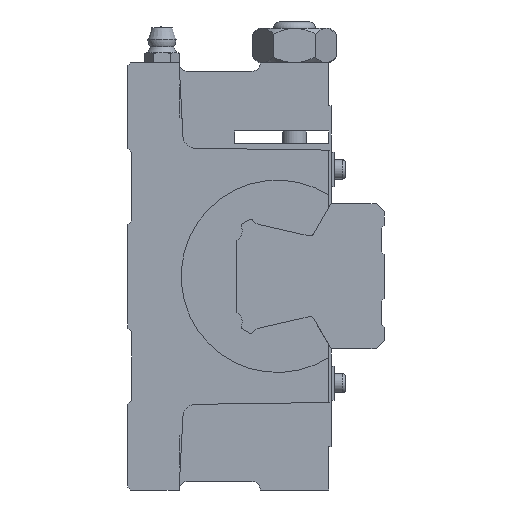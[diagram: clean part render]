
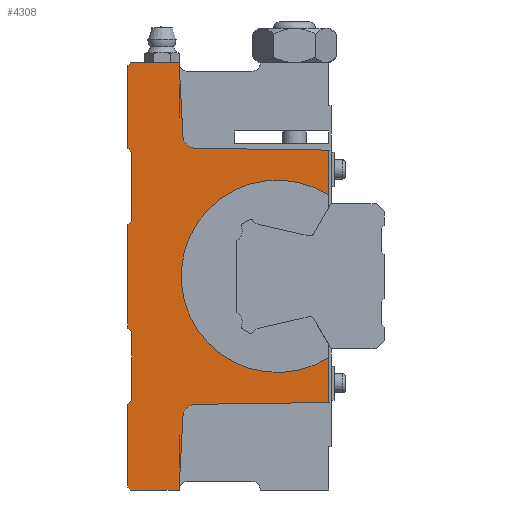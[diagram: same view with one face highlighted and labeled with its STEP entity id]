
A CAD part, left-side view. The second image highlights one B-rep face of the part: STEP entity #4308.
In plain terms, the highlighted planar face has unit normal (-1, 0, 0).
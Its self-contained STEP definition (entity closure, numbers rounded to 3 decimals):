
#287=CIRCLE('',#4650,3.);
#289=CIRCLE('',#4655,3.);
#299=CIRCLE('',#4690,22.5);
#1017=ORIENTED_EDGE('',*,*,#2012,.F.);
#1018=ORIENTED_EDGE('',*,*,#1810,.F.);
#1019=ORIENTED_EDGE('',*,*,#1927,.F.);
#1020=ORIENTED_EDGE('',*,*,#1924,.T.);
#1021=ORIENTED_EDGE('',*,*,#1950,.F.);
#1022=ORIENTED_EDGE('',*,*,#1943,.F.);
#1023=ORIENTED_EDGE('',*,*,#1938,.F.);
#1024=ORIENTED_EDGE('',*,*,#2009,.F.);
#1025=ORIENTED_EDGE('',*,*,#2004,.F.);
#1026=ORIENTED_EDGE('',*,*,#2001,.F.);
#1027=ORIENTED_EDGE('',*,*,#1998,.F.);
#1028=ORIENTED_EDGE('',*,*,#1995,.F.);
#1029=ORIENTED_EDGE('',*,*,#1992,.F.);
#1030=ORIENTED_EDGE('',*,*,#1989,.F.);
#1031=ORIENTED_EDGE('',*,*,#1986,.F.);
#1032=ORIENTED_EDGE('',*,*,#1983,.F.);
#1033=ORIENTED_EDGE('',*,*,#1978,.F.);
#1034=ORIENTED_EDGE('',*,*,#1975,.F.);
#1035=ORIENTED_EDGE('',*,*,#1968,.F.);
#1036=ORIENTED_EDGE('',*,*,#1936,.T.);
#1037=ORIENTED_EDGE('',*,*,#1931,.F.);
#1038=ORIENTED_EDGE('',*,*,#1812,.F.);
#1810=EDGE_CURVE('',#2370,#2366,#2752,.T.);
#1812=EDGE_CURVE('',#2371,#2373,#2754,.T.);
#1924=EDGE_CURVE('',#2444,#2443,#287,.T.);
#1927=EDGE_CURVE('',#2444,#2370,#2847,.T.);
#1931=EDGE_CURVE('',#2373,#2447,#2851,.T.);
#1936=EDGE_CURVE('',#2451,#2447,#289,.T.);
#1938=EDGE_CURVE('',#2452,#2453,#2855,.T.);
#1943=EDGE_CURVE('',#2453,#2457,#2859,.T.);
#1950=EDGE_CURVE('',#2457,#2443,#2865,.T.);
#1968=EDGE_CURVE('',#2451,#2470,#2876,.T.);
#1975=EDGE_CURVE('',#2470,#2474,#2882,.T.);
#1978=EDGE_CURVE('',#2474,#2476,#2885,.T.);
#1983=EDGE_CURVE('',#2476,#2480,#2888,.T.);
#1986=EDGE_CURVE('',#2480,#2482,#2891,.T.);
#1989=EDGE_CURVE('',#2482,#2484,#2894,.T.);
#1992=EDGE_CURVE('',#2484,#2486,#2897,.T.);
#1995=EDGE_CURVE('',#2486,#2488,#2900,.T.);
#1998=EDGE_CURVE('',#2488,#2490,#2903,.T.);
#2001=EDGE_CURVE('',#2490,#2492,#2906,.T.);
#2004=EDGE_CURVE('',#2492,#2494,#2909,.T.);
#2009=EDGE_CURVE('',#2494,#2452,#2912,.T.);
#2012=EDGE_CURVE('',#2366,#2371,#299,.F.);
#2366=VERTEX_POINT('',#6620);
#2370=VERTEX_POINT('',#6628);
#2371=VERTEX_POINT('',#6632);
#2373=VERTEX_POINT('',#6635);
#2443=VERTEX_POINT('',#6848);
#2444=VERTEX_POINT('',#6850);
#2447=VERTEX_POINT('',#6862);
#2451=VERTEX_POINT('',#6876);
#2452=VERTEX_POINT('',#6880);
#2453=VERTEX_POINT('',#6881);
#2457=VERTEX_POINT('',#6891);
#2470=VERTEX_POINT('',#6943);
#2474=VERTEX_POINT('',#6955);
#2476=VERTEX_POINT('',#6961);
#2480=VERTEX_POINT('',#6971);
#2482=VERTEX_POINT('',#6977);
#2484=VERTEX_POINT('',#6983);
#2486=VERTEX_POINT('',#6989);
#2488=VERTEX_POINT('',#6995);
#2490=VERTEX_POINT('',#7001);
#2492=VERTEX_POINT('',#7007);
#2494=VERTEX_POINT('',#7013);
#2752=LINE('',#6629,#3134);
#2754=LINE('',#6634,#3136);
#2847=LINE('',#6854,#3229);
#2851=LINE('',#6861,#3233);
#2855=LINE('',#6879,#3237);
#2859=LINE('',#6890,#3241);
#2865=LINE('',#6903,#3247);
#2876=LINE('',#6942,#3258);
#2882=LINE('',#6954,#3264);
#2885=LINE('',#6960,#3267);
#2888=LINE('',#6970,#3270);
#2891=LINE('',#6976,#3273);
#2894=LINE('',#6982,#3276);
#2897=LINE('',#6988,#3279);
#2900=LINE('',#6994,#3282);
#2903=LINE('',#7000,#3285);
#2906=LINE('',#7006,#3288);
#2909=LINE('',#7012,#3291);
#2912=LINE('',#7022,#3294);
#3134=VECTOR('',#5298,1000.);
#3136=VECTOR('',#5302,1000.);
#3229=VECTOR('',#5495,1000.);
#3233=VECTOR('',#5501,1000.);
#3237=VECTOR('',#5513,1000.);
#3241=VECTOR('',#5521,1000.);
#3247=VECTOR('',#5531,1000.);
#3258=VECTOR('',#5562,1000.);
#3264=VECTOR('',#5572,1000.);
#3267=VECTOR('',#5577,1000.);
#3270=VECTOR('',#5586,1000.);
#3273=VECTOR('',#5591,1000.);
#3276=VECTOR('',#5596,1000.);
#3279=VECTOR('',#5601,1000.);
#3282=VECTOR('',#5606,1000.);
#3285=VECTOR('',#5611,1000.);
#3288=VECTOR('',#5616,1000.);
#3291=VECTOR('',#5621,1000.);
#3294=VECTOR('',#5630,1000.);
#3530=EDGE_LOOP('',(#1017,#1018,#1019,#1020,#1021,#1022,#1023,#1024,#1025,
#1026,#1027,#1028,#1029,#1030,#1031,#1032,#1033,#1034,#1035,#1036,#1037,
#1038));
#3856=FACE_BOUND('',#3530,.T.);
#4105=PLANE('',#4689);
#4308=ADVANCED_FACE('',(#3856),#4105,.F.);
#4650=AXIS2_PLACEMENT_3D('',#6849,#5489,#5490);
#4655=AXIS2_PLACEMENT_3D('',#6875,#5508,#5509);
#4689=AXIS2_PLACEMENT_3D('',#7026,#5636,#5637);
#4690=AXIS2_PLACEMENT_3D('',#7027,#5638,#5639);
#5298=DIRECTION('',(0.,0.,-1.));
#5302=DIRECTION('',(0.,0.,-1.));
#5489=DIRECTION('',(1.,0.,0.));
#5490=DIRECTION('',(0.,0.,-1.));
#5495=DIRECTION('',(0.,-1.,-0.014));
#5501=DIRECTION('',(0.,1.,-0.014));
#5508=DIRECTION('',(1.,0.,0.));
#5509=DIRECTION('',(0.,0.,-1.));
#5513=DIRECTION('',(0.,-0.707,0.707));
#5521=DIRECTION('',(0.,-1.,0.));
#5531=DIRECTION('',(0.,-0.052,-0.999));
#5562=DIRECTION('',(0.,0.052,-0.999));
#5572=DIRECTION('',(0.,1.,0.));
#5577=DIRECTION('',(0.,0.707,0.707));
#5586=DIRECTION('',(0.,0.,1.));
#5591=DIRECTION('',(0.,-0.707,0.707));
#5596=DIRECTION('',(0.,0.,1.));
#5601=DIRECTION('',(0.,0.707,0.707));
#5606=DIRECTION('',(0.,0.,1.));
#5611=DIRECTION('',(0.,-0.707,0.707));
#5616=DIRECTION('',(0.,0.,1.));
#5621=DIRECTION('',(0.,0.707,0.707));
#5630=DIRECTION('',(0.,0.,1.));
#5636=DIRECTION('',(1.,0.,0.));
#5637=DIRECTION('',(0.,0.,-1.));
#5638=DIRECTION('',(1.,0.,0.));
#5639=DIRECTION('',(0.,0.,-1.));
#6620=CARTESIAN_POINT('',(-45.,4.,19.033));
#6628=CARTESIAN_POINT('',(-45.,4.,29.527));
#6629=CARTESIAN_POINT('',(-45.,4.,29.527));
#6632=CARTESIAN_POINT('',(-45.,4.,-19.033));
#6634=CARTESIAN_POINT('',(-45.,4.,29.527));
#6635=CARTESIAN_POINT('',(-45.,4.,-29.527));
#6848=CARTESIAN_POINT('',(-45.,38.103,32.792));
#6849=CARTESIAN_POINT('',(-45.,35.107,32.948));
#6850=CARTESIAN_POINT('',(-45.,35.148,29.948));
#6854=CARTESIAN_POINT('',(-45.,35.148,29.948));
#6861=CARTESIAN_POINT('',(-45.,4.,-29.527));
#6862=CARTESIAN_POINT('',(-45.,35.148,-29.948));
#6875=CARTESIAN_POINT('',(-45.,35.107,-32.948));
#6876=CARTESIAN_POINT('',(-45.,38.103,-32.792));
#6879=CARTESIAN_POINT('',(-45.,51.,49.3));
#6880=CARTESIAN_POINT('',(-45.,51.,49.3));
#6881=CARTESIAN_POINT('',(-45.,50.3,50.));
#6890=CARTESIAN_POINT('',(-45.,50.3,50.));
#6891=CARTESIAN_POINT('',(-45.,39.,50.));
#6903=CARTESIAN_POINT('',(-45.,39.,50.));
#6942=CARTESIAN_POINT('',(-45.,38.103,-32.792));
#6943=CARTESIAN_POINT('',(-45.,39.,-50.));
#6954=CARTESIAN_POINT('',(-45.,39.,-50.));
#6955=CARTESIAN_POINT('',(-45.,50.3,-50.));
#6960=CARTESIAN_POINT('',(-45.,50.3,-50.));
#6961=CARTESIAN_POINT('',(-45.,51.,-49.3));
#6970=CARTESIAN_POINT('',(-45.,51.,-49.3));
#6971=CARTESIAN_POINT('',(-45.,51.,-29.9));
#6976=CARTESIAN_POINT('',(-45.,51.,-29.9));
#6977=CARTESIAN_POINT('',(-45.,50.1,-29.));
#6982=CARTESIAN_POINT('',(-45.,50.1,-29.));
#6983=CARTESIAN_POINT('',(-45.,50.1,-13.));
#6988=CARTESIAN_POINT('',(-45.,50.1,-13.));
#6989=CARTESIAN_POINT('',(-45.,51.,-12.1));
#6994=CARTESIAN_POINT('',(-45.,51.,-12.1));
#6995=CARTESIAN_POINT('',(-45.,51.,12.1));
#7000=CARTESIAN_POINT('',(-45.,51.,12.1));
#7001=CARTESIAN_POINT('',(-45.,50.1,13.));
#7006=CARTESIAN_POINT('',(-45.,50.1,13.));
#7007=CARTESIAN_POINT('',(-45.,50.1,29.));
#7012=CARTESIAN_POINT('',(-45.,50.1,29.));
#7013=CARTESIAN_POINT('',(-45.,51.,29.9));
#7022=CARTESIAN_POINT('',(-45.,51.,29.9));
#7026=CARTESIAN_POINT('',(-45.,35.107,32.948));
#7027=CARTESIAN_POINT('',(-45.,16.,0.));
